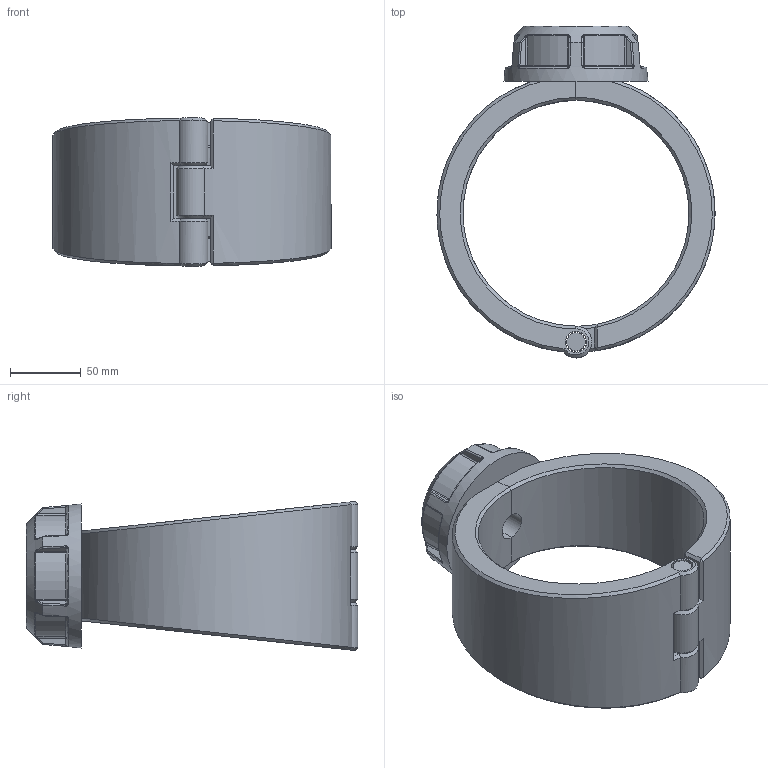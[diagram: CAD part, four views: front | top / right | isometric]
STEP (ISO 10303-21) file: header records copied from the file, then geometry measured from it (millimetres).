
FILE_DESCRIPTION(/* description */ ('Plassadle Threaded 160x1 1/4'''''),/* implementation_level */ '2;1');
FILE_NAME(/* name */ 'C:\Users\comp2\Dropbox\99-16-3568-Processing\Mechanical Fittings\16300\stp\163000160013.stp',/* time_stamp */ '2022-02-03T11:51:31+00:00',/* author */ ('comp2'),/* organization */ (''),/* preprocessor_version */ 'ST-DEVELOPER v17.2',/* originating_system */ 'Autodesk Inventor 2019',/* authorisation */ '');
FILE_SCHEMA (('AUTOMOTIVE_DESIGN { 1 0 10303 214 3 1 1 }'));
Length unit declared in the file: millimetre
Products named in the file (1): 163000160013
Bounding box: 196.98 x 235 x 105.57 mm (x, y, z)
Volume: 1048825.4 mm3; surface area: 156624.7 mm2
Topology: 4 solids, 4 shells, 203 faces, 486 edges, 293 vertices
Faces by surface type: bspline 58, plane 53, cylinder 47, torus 18, cone 15, sphere 12
Full cylindrical faces by diameter (mm): 13.04 x1, 15.04 x3, 19.476 x1, 33.109 x1, 38.952 x1, 58.428 x1
Entity records: 8244 total; most frequent: CARTESIAN_POINT 3897, ORIENTED_EDGE 972, DIRECTION 781, EDGE_CURVE 486, AXIS2_PLACEMENT_3D 330, VERTEX_POINT 293, EDGE_LOOP 213, FACE_OUTER_BOUND 203
